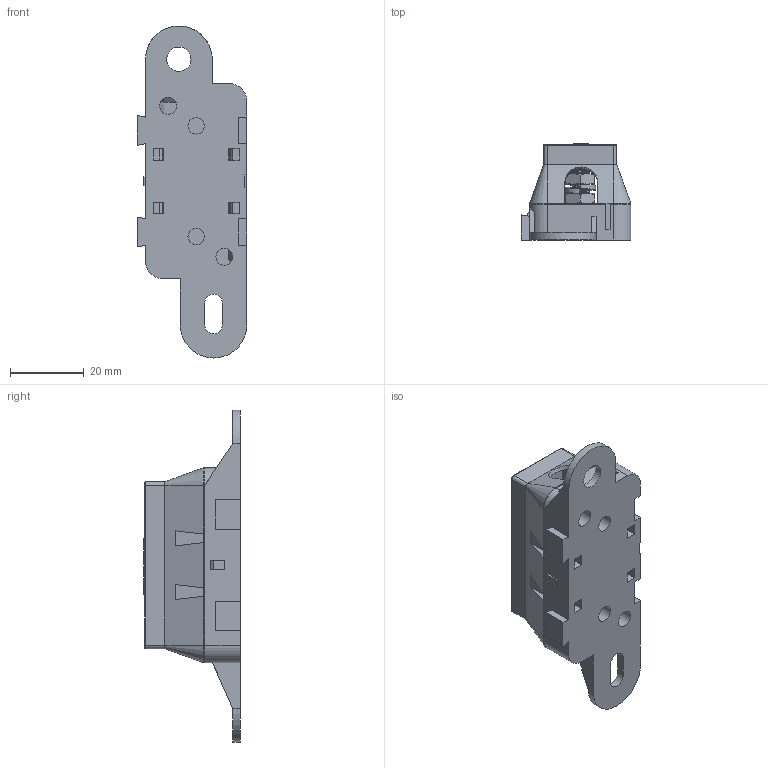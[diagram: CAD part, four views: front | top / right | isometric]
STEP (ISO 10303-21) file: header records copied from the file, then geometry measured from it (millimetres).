
FILE_DESCRIPTION(/* description */ (''),/* implementation_level */ '2;1');
FILE_NAME(/* name */ 'C:\Users\Hani\Desktop\work\BLC-06B\BLC-06B.stp',/* time_stamp */ '2021-07-09T16:09:04-07:00',/* author */ ('Hani'),/* organization */ (''),/* preprocessor_version */ 'ST-DEVELOPER v17',/* originating_system */ 'Autodesk Inventor 2019',/* authorisation */ '');
FILE_SCHEMA (('AUTOMOTIVE_DESIGN { 1 0 10303 214 3 1 1 }'));
Length unit declared in the file: inch
Products named in the file (6): BLC-06B; BLC-06B_1; M5 Hex Head Screw; LOCK WASHER; HEX NUT; BLC-06B-Cover
Assembly tree (10 placements, depth 2):
  BLC-06B
    BLC-06B_1
    M5 Hex Head Screw  x2
    LOCK WASHER  x2
    HEX NUT  x4
    BLC-06B-Cover
Bounding box: 29.72 x 26.16 x 89.91 mm (x, y, z)
Volume: 18152.9 mm3; surface area: 16329.8 mm2
Topology: 10 solids, 10 shells, 607 faces, 1624 edges, 1039 vertices
Faces by surface type: plane 275, cylinder 139, cone 100, bspline 85, torus 8
Full cylindrical faces by diameter (mm): 3.795 x4, 3.961 x32, 4.47 x2, 4.572 x2, 4.826 x12, 5 x34, 6.579 x1, 9.525 x2
Entity records: 18690 total; most frequent: CARTESIAN_POINT 7810, ORIENTED_EDGE 2424, DIRECTION 1820, EDGE_CURVE 1212, LINE 792, VECTOR 792, VERTEX_POINT 791, AXIS2_PLACEMENT_3D 514
